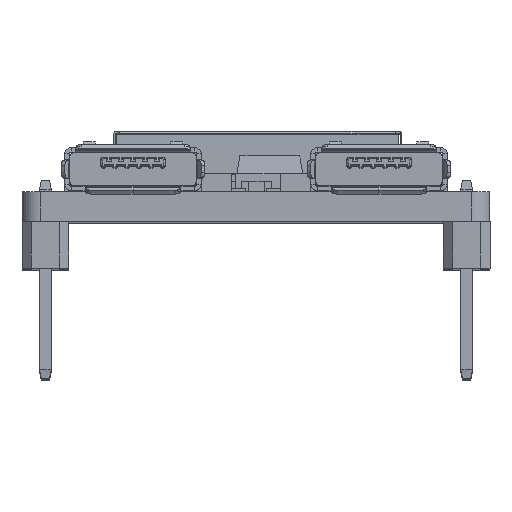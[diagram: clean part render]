
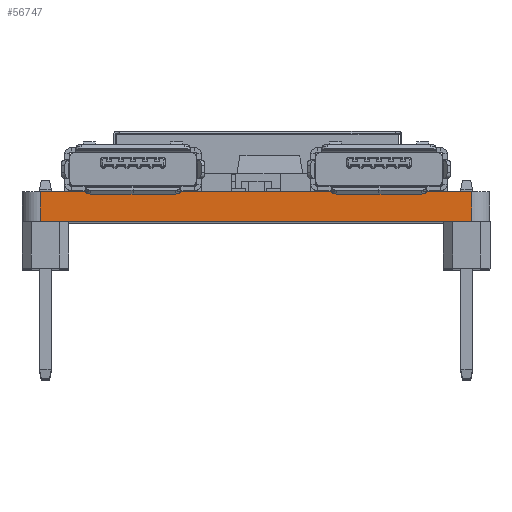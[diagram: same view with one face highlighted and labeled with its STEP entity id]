
A CAD part, top view. The second image highlights one B-rep face of the part: STEP entity #56747.
In plain terms, the highlighted planar face has unit normal (0, 0, 1).
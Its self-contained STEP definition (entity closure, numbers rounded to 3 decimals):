
#14687 = DIRECTION ( 'NONE',  ( -1., 0., 0. ) ) ;
#16884 = VECTOR ( 'NONE', #52013, 1000. ) ;
#26991 = ORIENTED_EDGE ( 'NONE', *, *, #98690, .T. ) ;
#28954 = DIRECTION ( 'NONE',  ( 1., 0., 0. ) ) ;
#29760 = VERTEX_POINT ( 'NONE', #78827 ) ;
#31481 = CARTESIAN_POINT ( 'NONE',  ( -12.7, 4.14, 31.37 ) ) ;
#33810 = DIRECTION ( 'NONE',  ( 0., 0., -1. ) ) ;
#34428 = FACE_OUTER_BOUND ( 'NONE', #122575, .T. ) ;
#36282 = ORIENTED_EDGE ( 'NONE', *, *, #89223, .T. ) ;
#37169 = VERTEX_POINT ( 'NONE', #74894 ) ;
#37951 = DIRECTION ( 'NONE',  ( 1., 0., 0. ) ) ;
#38490 = LINE ( 'NONE', #31481, #53401 ) ;
#41499 = LINE ( 'NONE', #69411, #73022 ) ;
#50369 = DIRECTION ( 'NONE',  ( 0., -1., 0. ) ) ;
#52013 = DIRECTION ( 'NONE',  ( 0., 1., 0. ) ) ;
#53401 = VECTOR ( 'NONE', #28954, 1000. ) ;
#56747 = ADVANCED_FACE ( 'NONE', ( #34428 ), #111878, .F. ) ;
#65483 = AXIS2_PLACEMENT_3D ( 'NONE', #101689, #33810, #14687 ) ;
#66371 = VERTEX_POINT ( 'NONE', #105256 ) ;
#69411 = CARTESIAN_POINT ( 'NONE',  ( -11.7, 75.967, 31.37 ) ) ;
#72329 = CARTESIAN_POINT ( 'NONE',  ( 11.7, 75.967, 31.37 ) ) ;
#72609 = CARTESIAN_POINT ( 'NONE',  ( 11.7, 2.54, 31.37 ) ) ;
#73022 = VECTOR ( 'NONE', #50369, 1000. ) ;
#74894 = CARTESIAN_POINT ( 'NONE',  ( -11.7, 2.54, 31.37 ) ) ;
#75300 = VERTEX_POINT ( 'NONE', #72609 ) ;
#77278 = CARTESIAN_POINT ( 'NONE',  ( -12.7, 2.54, 31.37 ) ) ;
#78827 = CARTESIAN_POINT ( 'NONE',  ( 11.7, 4.14, 31.37 ) ) ;
#83249 = VECTOR ( 'NONE', #37951, 1000. ) ;
#89223 = EDGE_CURVE ( 'NONE', #66371, #37169, #41499, .T. ) ;
#95673 = LINE ( 'NONE', #77278, #83249 ) ;
#98690 = EDGE_CURVE ( 'NONE', #37169, #75300, #95673, .T. ) ;
#100901 = LINE ( 'NONE', #72329, #16884 ) ;
#101255 = EDGE_CURVE ( 'NONE', #75300, #29760, #100901, .T. ) ;
#101689 = CARTESIAN_POINT ( 'NONE',  ( -12.7, 75.967, 31.37 ) ) ;
#102815 = EDGE_CURVE ( 'NONE', #66371, #29760, #38490, .T. ) ;
#103192 = ORIENTED_EDGE ( 'NONE', *, *, #101255, .T. ) ;
#105256 = CARTESIAN_POINT ( 'NONE',  ( -11.7, 4.14, 31.37 ) ) ;
#105896 = ORIENTED_EDGE ( 'NONE', *, *, #102815, .F. ) ;
#111878 = PLANE ( 'NONE',  #65483 ) ;
#122575 = EDGE_LOOP ( 'NONE', ( #105896, #36282, #26991, #103192 ) ) ;
